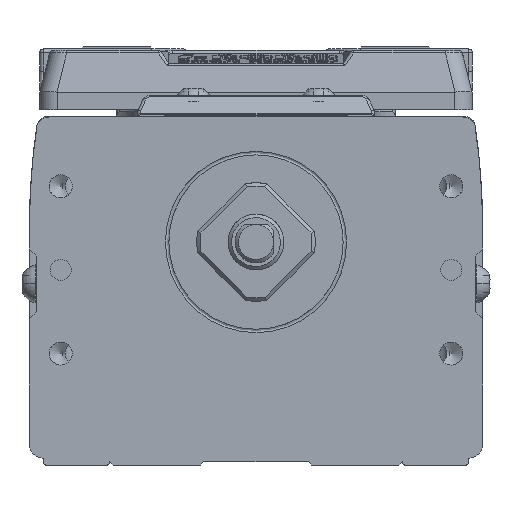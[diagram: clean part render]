
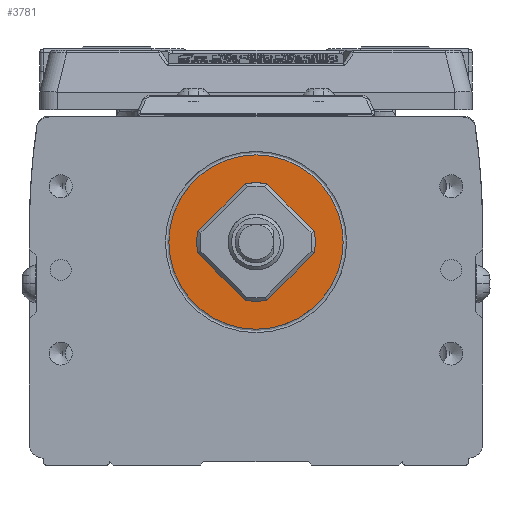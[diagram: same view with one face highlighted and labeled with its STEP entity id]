
A CAD part, left-side view. The second image highlights one B-rep face of the part: STEP entity #3781.
In plain terms, the highlighted planar face has unit normal (-1, 0, 0) as drawn and (0, 0, 1) by its records, which use the part's own axes.
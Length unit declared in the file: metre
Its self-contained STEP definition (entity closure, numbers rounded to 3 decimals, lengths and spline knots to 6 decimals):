
#3781=ADVANCED_FACE('',(#7877,#7878),#7879,.T.);
#7877=FACE_OUTER_BOUND('',#15467,.T.);
#7878=FACE_BOUND('',#15468,.T.);
#7879=PLANE('',#15469);
#15467=EDGE_LOOP('',(#25580));
#15468=EDGE_LOOP('',(#25581));
#15469=AXIS2_PLACEMENT_3D('',#25582,#25583,#25584);
#25580=ORIENTED_EDGE('',*,*,#31850,.T.);
#25581=ORIENTED_EDGE('',*,*,#33434,.F.);
#25582=CARTESIAN_POINT('',(0.000036,-0.0065,0.02));
#25583=DIRECTION('',(0.0,0.0,1.0));
#25584=DIRECTION('',(1.0,0.0,0.0));
#31850=EDGE_CURVE('',#38058,#38058,#38059,.T.);
#33434=EDGE_CURVE('',#40248,#40248,#40249,.T.);
#38058=VERTEX_POINT('',#46807);
#38059=CIRCLE('',#46808,0.0125);
#40248=VERTEX_POINT('',#50239);
#40249=CIRCLE('',#50240,0.004);
#46807=CARTESIAN_POINT('',(-0.0125,0.,0.02));
#46808=AXIS2_PLACEMENT_3D('',#54316,#54317,#54318);
#50239=CARTESIAN_POINT('',(0.004,0.0,0.02));
#50240=AXIS2_PLACEMENT_3D('',#56116,#56117,#56118);
#54316=CARTESIAN_POINT('',(0.0,0.,0.02));
#54317=DIRECTION('',(0.0,0.0,1.0));
#54318=DIRECTION('',(1.0,0.0,0.0));
#56116=CARTESIAN_POINT('',(0.0,0.0,0.02));
#56117=DIRECTION('',(0.0,0.0,1.0));
#56118=DIRECTION('',(-1.0,0.0,0.0));
